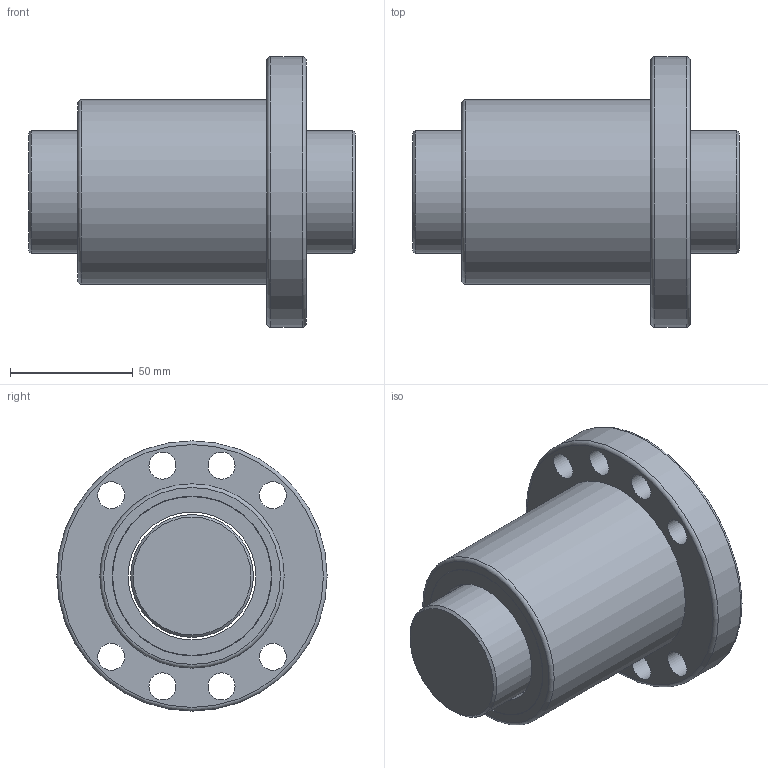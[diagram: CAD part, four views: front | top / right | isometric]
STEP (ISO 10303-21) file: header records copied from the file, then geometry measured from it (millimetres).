
FILE_DESCRIPTION(/* description */ (''),/* implementation_level */ '2;1');
FILE_NAME(/* name */ 'SFU5010',/* time_stamp */ '2007-10-26T13:33:04+08:00',/* author */ (''),/* organization */ (''),/* preprocessor_version */ 'ST-DEVELOPER v9',/* originating_system */ 'EDS PLM SOLUTIONS - UNIGRAPHICS NX 1.0',/* authorisation */ '');
FILE_SCHEMA (('CONFIG_CONTROL_DESIGN'));
Length unit declared in the file: millimetre
Products named in the file (1): FANNDA0400ig
Bounding box: 133 x 110 x 110 mm (x, y, z)
Volume: 540510.3 mm3; surface area: 90977.1 mm2
Topology: 4 solids, 4 shells, 34 faces, 72 edges, 49 vertices
Faces by surface type: cylinder 18, plane 11, torus 3, cone 2
Full cylindrical faces by diameter (mm): 11 x8, 50 x1, 52 x3, 64.665 x3, 65 x1, 75 x1, 110 x1
Entity records: 878 total; most frequent: DIRECTION 152, CARTESIAN_POINT 117, EDGE_LOOP 82, ORIENTED_EDGE 82, AXIS2_PLACEMENT_3D 76, FACE_BOUND 69, VERTEX_POINT 41, EDGE_CURVE 41
